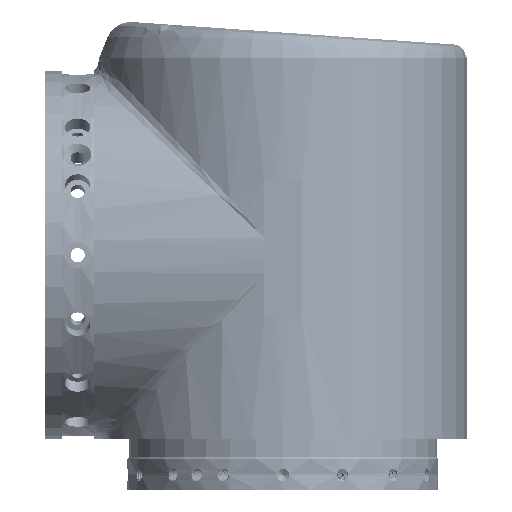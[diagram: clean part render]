
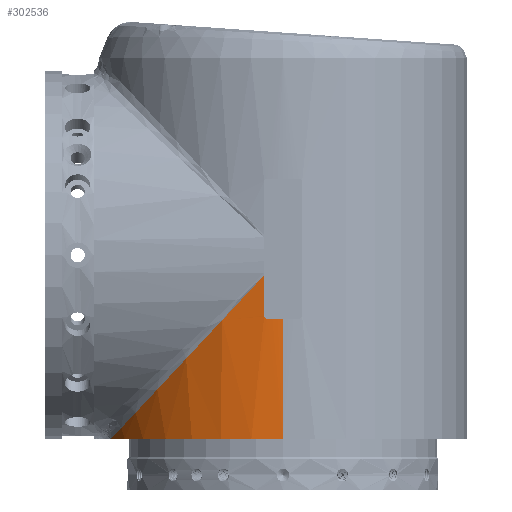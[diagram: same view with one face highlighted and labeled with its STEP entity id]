
A CAD part, left-side view. The second image highlights one B-rep face of the part: STEP entity #302536.
In plain terms, the highlighted cylindrical face has radius 58 mm (diameter 116 mm), a partial arc.
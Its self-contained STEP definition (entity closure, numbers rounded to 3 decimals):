
#9164 = CARTESIAN_POINT ( 'NONE',  ( -58., 0., 0. ) ) ;
#10898 = VERTEX_POINT ( 'NONE', #214897 ) ;
#11496 = CARTESIAN_POINT ( 'NONE',  ( -57.728, 5.614, 38.2 ) ) ;
#13057 = CARTESIAN_POINT ( 'NONE',  ( -57.689, 6., 38.735 ) ) ;
#15547 = ORIENTED_EDGE ( 'NONE', *, *, #25641, .T. ) ;
#22074 = DIRECTION ( 'NONE',  ( 1., 0., 0. ) ) ;
#25641 = EDGE_CURVE ( 'NONE', #228666, #265712, #204688, .T. ) ;
#33996 = ORIENTED_EDGE ( 'NONE', *, *, #206800, .T. ) ;
#37640 = LINE ( 'NONE', #204614, #149255 ) ;
#37650 = EDGE_CURVE ( 'NONE', #10898, #116292, #63113, .T. ) ;
#45470 = CARTESIAN_POINT ( 'NONE',  ( 0., 0., 0. ) ) ;
#56782 = CARTESIAN_POINT ( 'NONE',  ( -57.773, 5.132, 38. ) ) ;
#59871 = CARTESIAN_POINT ( 'NONE',  ( -57.7, 5.891, 38.476 ) ) ;
#63113 = B_SPLINE_CURVE_WITH_KNOTS ( 'NONE', 3,
 ( #225353, #56782, #178473, #106690, #11496, #59871, #13057, #292474 ),
 .UNSPECIFIED., .F., .F.,
 ( 4, 2, 2, 4 ),
 ( 0., 0., 0.001, 0.002 ),
 .UNSPECIFIED. ) ;
#72149 = VECTOR ( 'NONE', #125663, 1000. ) ;
#74692 = FACE_OUTER_BOUND ( 'NONE', #277541, .T. ) ;
#80783 = CARTESIAN_POINT ( 'NONE',  ( 0., 0., 38. ) ) ;
#85961 = DIRECTION ( 'NONE',  ( 0., 0., 1. ) ) ;
#92754 = CARTESIAN_POINT ( 'NONE',  ( -20.495, 54.258, 0. ) ) ;
#98101 = DIRECTION ( 'NONE',  ( 0., 0., -1. ) ) ;
#102634 = DIRECTION ( 'NONE',  ( -1., 0., 0. ) ) ;
#106690 = CARTESIAN_POINT ( 'NONE',  ( -57.738, 5.503, 38.126 ) ) ;
#107798 = EDGE_CURVE ( 'NONE', #256448, #265712, #149067, .T. ) ;
#116292 = VERTEX_POINT ( 'NONE', #128841 ) ;
#118441 = CYLINDRICAL_SURFACE ( 'NONE', #186670, 58. ) ;
#125663 = DIRECTION ( 'NONE',  ( 0., 0., -1. ) ) ;
#127601 = DIRECTION ( 'NONE',  ( 0., 0., -1. ) ) ;
#128841 = CARTESIAN_POINT ( 'NONE',  ( -57.689, 6., 39. ) ) ;
#142670 = CARTESIAN_POINT ( 'NONE',  ( -55.356, 28.429, 27.61 ) ) ;
#149067 = LINE ( 'NONE', #220915, #72149 ) ;
#149255 = VECTOR ( 'NONE', #85961, 1000. ) ;
#150665 = EDGE_CURVE ( 'NONE', #168714, #228666, #187839, .T. ) ;
#163738 = DIRECTION ( 'NONE',  ( -1., 0., 0. ) ) ;
#168714 = VERTEX_POINT ( 'NONE', #307921 ) ;
#169352 = ORIENTED_EDGE ( 'NONE', *, *, #37650, .T. ) ;
#169896 = CARTESIAN_POINT ( 'NONE',  ( 0., 0., 120. ) ) ;
#178473 = CARTESIAN_POINT ( 'NONE',  ( -57.761, 5.261, 38.026 ) ) ;
#186670 = AXIS2_PLACEMENT_3D ( 'NONE', #169896, #98101, #163738 ) ;
#187839 =( BOUNDED_CURVE ( )  B_SPLINE_CURVE ( 3, ( #306648, #142670, #256725, #92754 ),
 .UNSPECIFIED., .F., .F. ) 
 B_SPLINE_CURVE_WITH_KNOTS ( ( 4, 4 ),
 ( 4.816, 5.922 ),
 .UNSPECIFIED. ) 
 CURVE ( )  GEOMETRIC_REPRESENTATION_ITEM ( )  RATIONAL_B_SPLINE_CURVE ( ( 1., 0.901, 0.901, 1. ) ) 
 REPRESENTATION_ITEM ( '' )  );
#188253 = EDGE_CURVE ( 'NONE', #116292, #168714, #37640, .T. ) ;
#204614 = CARTESIAN_POINT ( 'NONE',  ( -57.689, 6., 120. ) ) ;
#204688 = CIRCLE ( 'NONE', #264606, 58. ) ;
#206800 = EDGE_CURVE ( 'NONE', #256448, #10898, #307899, .T. ) ;
#207813 = ORIENTED_EDGE ( 'NONE', *, *, #107798, .F. ) ;
#209176 = ORIENTED_EDGE ( 'NONE', *, *, #188253, .T. ) ;
#214897 = CARTESIAN_POINT ( 'NONE',  ( -57.784, 5., 38. ) ) ;
#220915 = CARTESIAN_POINT ( 'NONE',  ( -58., 0., 120. ) ) ;
#225353 = CARTESIAN_POINT ( 'NONE',  ( -57.784, 5., 38. ) ) ;
#228666 = VERTEX_POINT ( 'NONE', #230422 ) ;
#230422 = CARTESIAN_POINT ( 'NONE',  ( -20.495, 54.258, 0. ) ) ;
#238614 = ORIENTED_EDGE ( 'NONE', *, *, #150665, .T. ) ;
#253066 = AXIS2_PLACEMENT_3D ( 'NONE', #80783, #127601, #102634 ) ;
#256448 = VERTEX_POINT ( 'NONE', #276488 ) ;
#256725 = CARTESIAN_POINT ( 'NONE',  ( -41.59, 46.29, 8.518 ) ) ;
#264606 = AXIS2_PLACEMENT_3D ( 'NONE', #45470, #282695, #22074 ) ;
#265712 = VERTEX_POINT ( 'NONE', #9164 ) ;
#276488 = CARTESIAN_POINT ( 'NONE',  ( -58., 0., 38. ) ) ;
#277541 = EDGE_LOOP ( 'NONE', ( #207813, #33996, #169352, #209176, #238614, #15547 ) ) ;
#282695 = DIRECTION ( 'NONE',  ( 0., 0., 1. ) ) ;
#292474 = CARTESIAN_POINT ( 'NONE',  ( -57.689, 6., 39. ) ) ;
#302536 = ADVANCED_FACE ( 'NONE', ( #74692 ), #118441, .T. ) ;
#306648 = CARTESIAN_POINT ( 'NONE',  ( -57.689, 6., 51.586 ) ) ;
#307899 = CIRCLE ( 'NONE', #253066, 58. ) ;
#307921 = CARTESIAN_POINT ( 'NONE',  ( -57.689, 6., 51.586 ) ) ;
